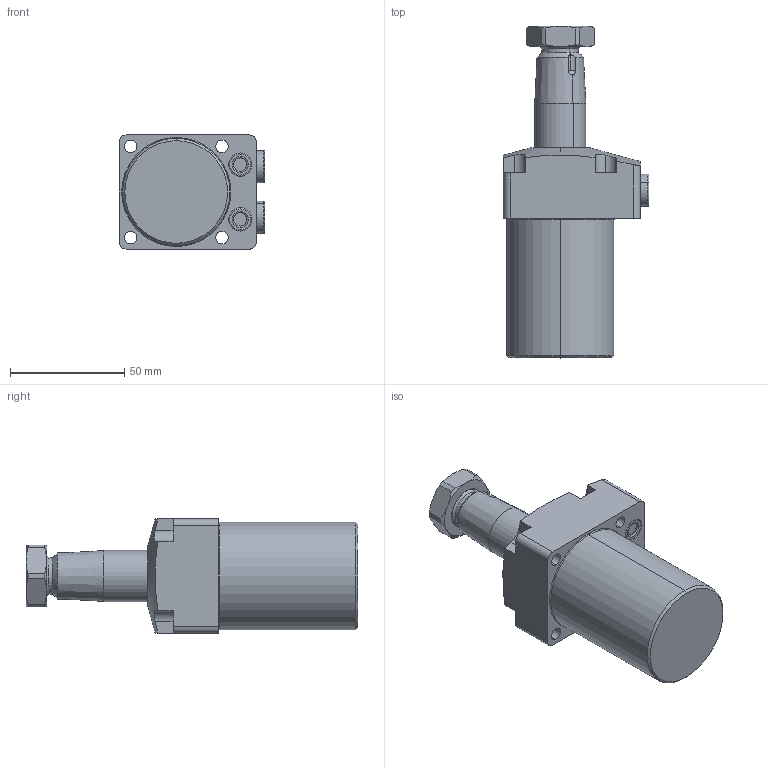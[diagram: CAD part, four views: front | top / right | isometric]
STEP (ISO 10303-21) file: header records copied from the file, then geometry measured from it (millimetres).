
FILE_DESCRIPTION(/* description */ (''),/* implementation_level */ '2;1');
FILE_NAME(/* name */ 'TRC04-LN60.stp',/* time_stamp */ '2025-01-04T10:11:24+08:00',/* author */ (''),/* organization */ (''),/* preprocessor_version */ 'ST-DEVELOPER v16.7',/* originating_system */ 'SIEMENS PLM Software NX 12.0',/* authorisation */ '');
FILE_SCHEMA (('AUTOMOTIVE_DESIGN { 1 0 10303 214 3 1 1 1 }'));
Length unit declared in the file: millimetre
Products named in the file (5): TRC04-LN60-04; TRC04-LN60-03; TRC04-LN60-02; TRC04-LN60-01; TRC04-LN60_stp
Assembly tree (5 placements, depth 2):
  TRC04-LN60_stp
    TRC04-LN60-01  x2
    TRC04-LN60-02
    TRC04-LN60-03
    TRC04-LN60-04
Bounding box: 63.8 x 145.4 x 50 mm (x, y, z)
Volume: 201715.1 mm3; surface area: 32356 mm2
Topology: 5 solids, 7 shells, 203 faces, 465 edges, 288 vertices
Faces by surface type: cylinder 73, plane 67, cone 40, torus 22, sphere 1
Entity records: 5434 total; most frequent: CARTESIAN_POINT 1110, DIRECTION 938, ORIENTED_EDGE 836, EDGE_CURVE 418, AXIS2_PLACEMENT_3D 386, VERTEX_POINT 260, EDGE_LOOP 206, CIRCLE 199
